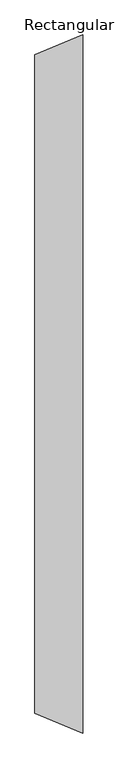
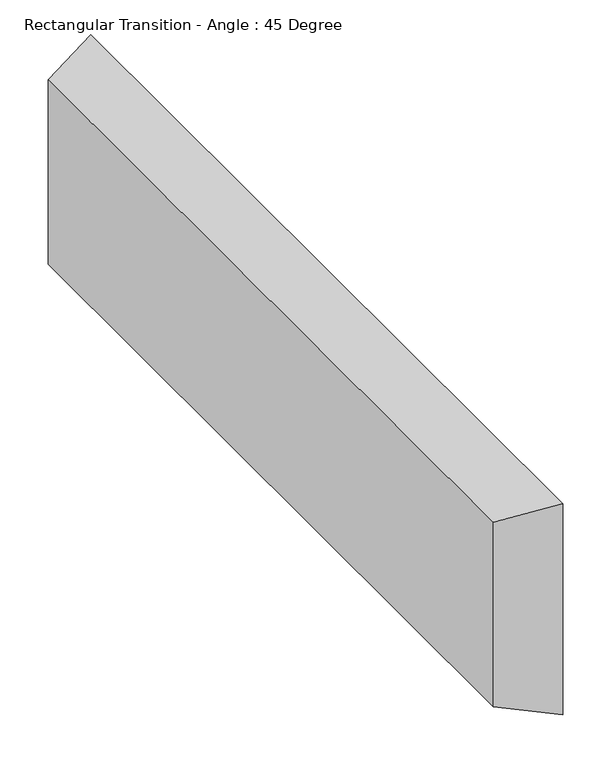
"""IFC4 building model written with IfcOpenShell, lengths in millimetres: duct fitting geometry, Rectangular Transition - Angle : 45 Degree."""

from ifc_helpers import new_model, si_unit, origin, place, context, project, spatial, faceted_brep, source, transform, mapped, element, save


def rectangular_transition_angle_45_degree_6ca9a747(model_context):
    return source(origin(), model_context, "Body", "Brep", [
        faceted_brep([(153.3025612, -1117.6, 304.8), (153.3025612, -1117.6, -304.8), (153.3025612, 1117.6, -304.8), (153.3025612, 1117.6, 304.8), (0.0, -1054.1, 266.7), (0.0, 1054.1, 266.7), (0.0, 1054.1, -266.7), (0.0, -1054.1, -266.7)], [[[0, 1, 2, 3]], [[4, 5, 6, 7]], [[4, 7, 1, 0]], [[7, 6, 2, 1]], [[6, 5, 3, 2]], [[5, 4, 0, 3]]]),
    ])


if __name__ == "__main__":
    model = new_model("IFC4")
    model_context = context("Model", 3, world=origin())
    ifc_project = project(units=[si_unit("LENGTHUNIT", "METRE", prefix="MILLI")], contexts=[model_context])
    site = spatial("IfcSite", under=ifc_project)
    building = spatial("IfcBuilding", under=site)
    placement = place(None, origin())
    rectangular_transition_angle_45_degree_shape = rectangular_transition_angle_45_degree_6ca9a747(model_context)
    element("IfcDuctFitting", 1, ObjectType="Rectangular Transition - Angle : 45 Degree", at=placement, inside=building, context=model_context, shape_type="MappedRepresentation", body=[
        mapped(rectangular_transition_angle_45_degree_shape, transform((0.0, 0.0, 0.0), x_axis=(1.0, 0.0, 0.0), y_axis=(0.0, 1.0, 0.0), z_axis=(0.0, 0.0, 1.0))),
    ])
    save(model, "model.ifc")
